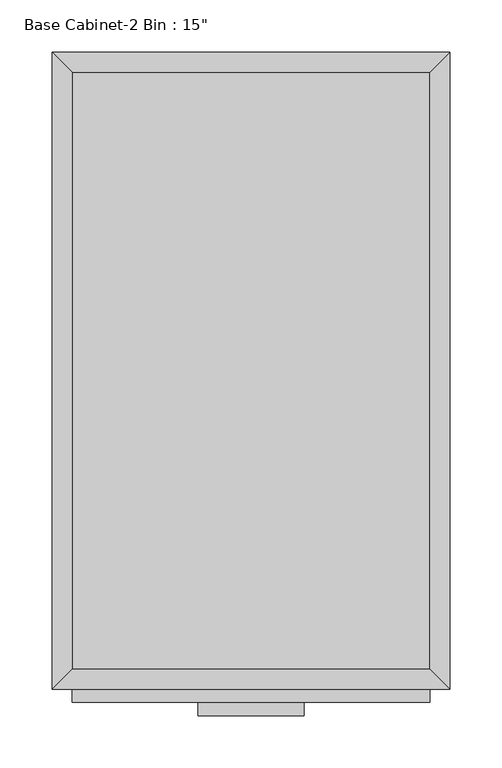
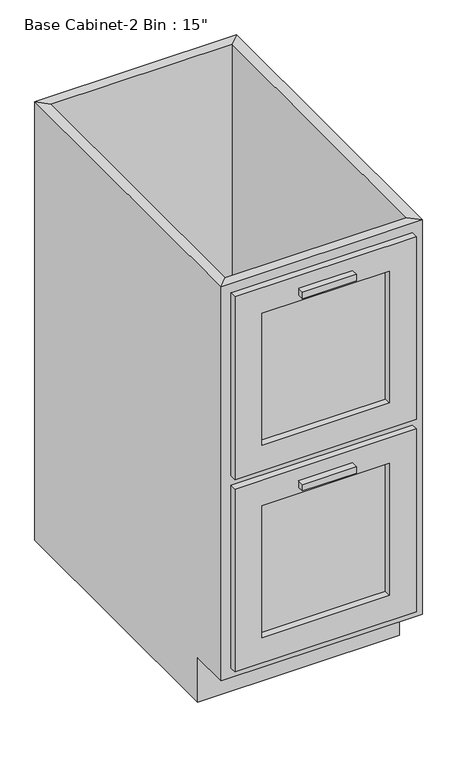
"""IFC4 building model written with IfcOpenShell, lengths in millimetres: furniture geometry."""

from ifc_helpers import new_model, si_unit, frame, origin, place, context, project, spatial, polyline, outline, extrude, faceted_brep, source, transform, mapped, element, save


def furniture_124a5a4a(model_context):
    return source(origin(), model_context, "Body", "SolidModel", [
        extrude(outline(polyline([(69.5377049, -635.0), (-32.0622951, -635.0), (-32.0622951, -622.3), (69.5377049, -622.3), (69.5377049, -635.0)])), frame((0.0, 0.0, 819.15), z_axis=(0.0, 0.0, 1.0), x_axis=(1.0, 0.0, 0.0)), (0.0, 0.0, 1.0), 12.7),
        extrude(outline(polyline([(69.5377049, -635.0), (-32.0622951, -635.0), (-32.0622951, -622.3), (69.5377049, -622.3), (69.5377049, -635.0)])), frame((0.0, 0.0, 434.975), z_axis=(0.0, 0.0, 1.0), x_axis=(1.0, 0.0, 0.0)), (0.0, 0.0, 1.0), 12.7),
        extrude(outline(polyline([(857.25, 190.1877049), (857.25, -152.7122951), (492.125, -152.7122951), (492.125, 190.1877049), (857.25, 190.1877049)]), holes=[polyline([(806.45, 139.3877049), (542.925, 139.3877049), (542.925, -101.9122951), (806.45, -101.9122951), (806.45, 139.3877049)])]), frame((0.0, -622.3, 0.0), z_axis=(0.0, 1.0, 0.0), x_axis=(0.0, 0.0, 1.0)), (0.0, 0.0, 1.0), 12.7),
        extrude(outline(polyline([(473.075, 190.1877049), (473.075, -152.7122951), (107.95, -152.7122951), (107.95, 190.1877049), (473.075, 190.1877049)]), holes=[polyline([(422.275, 139.3877049), (158.75, 139.3877049), (158.75, -101.9122951), (422.275, -101.9122951), (422.275, 139.3877049)])]), frame((0.0, -622.3, 0.0), z_axis=(0.0, 1.0, 0.0), x_axis=(0.0, 0.0, 1.0)), (0.0, 0.0, 1.0), 12.7),
        extrude(outline(polyline([(139.3877049, -609.6), (-101.9122951, -609.6), (-101.9122951, -590.55), (139.3877049, -590.55), (139.3877049, -609.6)])), frame((0.0, 0.0, 542.925), z_axis=(0.0, 0.0, 1.0), x_axis=(1.0, 0.0, 0.0)), (0.0, 0.0, 1.0), 263.525),
        extrude(outline(polyline([(139.3877049, -609.6), (-101.9122951, -609.6), (-101.9122951, -590.55), (139.3877049, -590.55), (139.3877049, -609.6)])), frame((0.0, 0.0, 158.75), z_axis=(0.0, 0.0, 1.0), x_axis=(1.0, 0.0, 0.0)), (0.0, 0.0, 1.0), 263.525),
        extrude(outline(polyline([(190.1877049, -19.05), (190.1877049, -590.55), (-152.7122951, -590.55), (-152.7122951, -19.05), (190.1877049, -19.05)])), frame((0.0, 0.0, 88.9), z_axis=(0.0, 0.0, 1.0), x_axis=(1.0, 0.0, 0.0)), (0.0, 0.0, 1.0), 19.05),
        faceted_brep([(190.1877049, -590.55, 876.3), (190.1877049, -590.55, 88.9), (-152.7122951, -590.55, 88.9), (-152.7122951, -590.55, 876.3), (139.3877049, -590.55, 542.925), (139.3877049, -590.55, 806.45), (-101.9122951, -590.55, 806.45), (-101.9122951, -590.55, 542.925), (139.3877049, -590.55, 158.75), (139.3877049, -590.55, 422.275), (-101.9122951, -590.55, 422.275), (-101.9122951, -590.55, 158.75), (-171.7622951, -609.6, 876.3), (209.2377049, -609.6, 876.3), (-171.7622951, -609.6, 88.9), (209.2377049, -609.6, 88.9), (139.3877049, -609.6, 806.45), (139.3877049, -609.6, 542.925), (-101.9122951, -609.6, 542.925), (-101.9122951, -609.6, 806.45), (139.3877049, -609.6, 422.275), (139.3877049, -609.6, 158.75), (-101.9122951, -609.6, 158.75), (-101.9122951, -609.6, 422.275), (-152.7122951, -533.4, 88.9), (-152.7122951, -19.05, 88.9), (-152.7122951, -19.05, 876.3), (-171.7622951, 0.0, 876.3), (-171.7622951, 0.0, 0.0), (-171.7622951, -533.4, 0.0), (-171.7622951, -533.4, 88.9), (190.1877049, -19.05, 88.9), (190.1877049, -19.05, 876.3), (209.2377049, 0.0, 876.3), (209.2377049, 0.0, 0.0), (190.1877049, -533.4, 88.9), (209.2377049, -533.4, 88.9), (209.2377049, -533.4, 0.0)], [[[0, 1, 2, 3], [4, 5, 6, 7], [8, 9, 10, 11]], [[0, 3, 12, 13]], [[13, 12, 14, 15], [16, 17, 18, 19], [20, 21, 22, 23]], [[2, 1, 15, 14]], [[3, 2, 24, 25, 26]], [[12, 3, 26, 27]], [[14, 12, 27, 28, 29, 30]], [[2, 14, 30, 24]], [[26, 25, 31, 32]], [[27, 26, 32, 33]], [[27, 33, 34, 28]], [[1, 0, 32, 31, 35]], [[0, 13, 33, 32]], [[13, 15, 36, 37, 34, 33]], [[15, 1, 35, 36]], [[24, 35, 31, 25]], [[34, 37, 29, 28]], [[29, 37, 36, 35, 24, 30]], [[4, 17, 16, 5]], [[17, 4, 7, 18]], [[18, 7, 6, 19]], [[5, 16, 19, 6]], [[8, 21, 20, 9]], [[21, 8, 11, 22]], [[22, 11, 10, 23]], [[9, 20, 23, 10]]]),
    ])


if __name__ == "__main__":
    model = new_model("IFC4")
    model_context = context("Model", 3, world=origin())
    ifc_project = project(units=[si_unit("LENGTHUNIT", "METRE", prefix="MILLI")], contexts=[model_context])
    site = spatial("IfcSite", under=ifc_project)
    building = spatial("IfcBuilding", under=site)
    placement = place(None, origin())
    furniture_shape = furniture_124a5a4a(model_context)
    element("IfcFurniture", 1, ObjectType="Base Cabinet-2 Bin : 15\"", at=placement, inside=building, context=model_context, shape_type="MappedRepresentation", body=[
        mapped(furniture_shape, transform((0.0, 0.0, 0.0), x_axis=(1.0, 0.0, 0.0), y_axis=(0.0, 1.0, 0.0), z_axis=(0.0, 0.0, 1.0))),
    ])
    save(model, "model.ifc")
